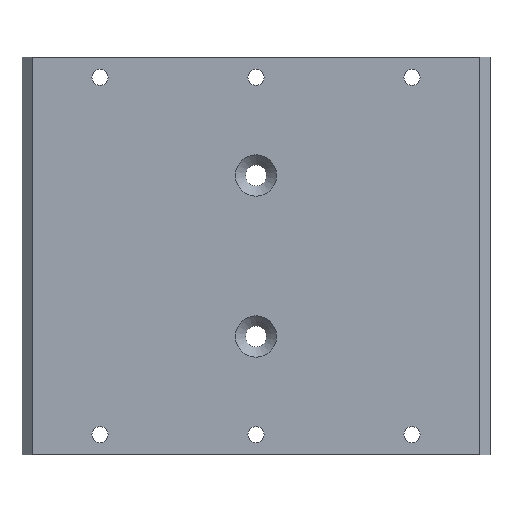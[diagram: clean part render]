
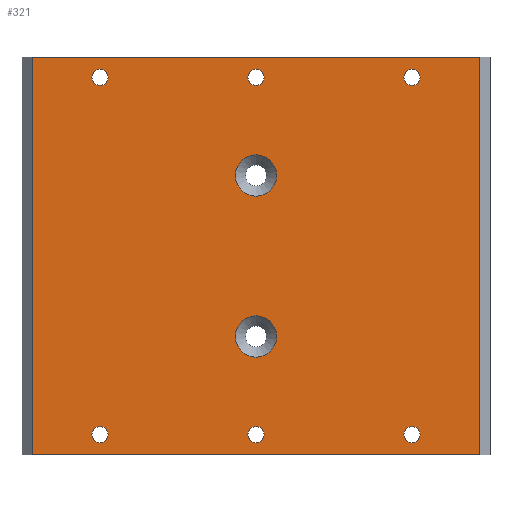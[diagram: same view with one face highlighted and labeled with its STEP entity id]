
A CAD part, front view. The second image highlights one B-rep face of the part: STEP entity #321.
In plain terms, the highlighted planar face has unit normal (0, -1, 0).
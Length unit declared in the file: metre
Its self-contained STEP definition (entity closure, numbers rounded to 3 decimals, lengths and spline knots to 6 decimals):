
#17=CIRCLE('',#348,0.0016);
#19=CIRCLE('',#351,0.0016);
#21=CIRCLE('',#354,0.0016);
#23=CIRCLE('',#357,0.0016);
#25=CIRCLE('',#360,0.0016);
#27=CIRCLE('',#363,0.0016);
#30=CIRCLE('',#369,0.0041);
#31=CIRCLE('',#370,0.0041);
#80=ORIENTED_EDGE('',*,*,#142,.T.);
#81=ORIENTED_EDGE('',*,*,#143,.T.);
#82=ORIENTED_EDGE('',*,*,#115,.T.);
#83=ORIENTED_EDGE('',*,*,#144,.T.);
#84=ORIENTED_EDGE('',*,*,#123,.T.);
#85=ORIENTED_EDGE('',*,*,#145,.T.);
#86=ORIENTED_EDGE('',*,*,#137,.F.);
#87=ORIENTED_EDGE('',*,*,#135,.F.);
#88=ORIENTED_EDGE('',*,*,#133,.F.);
#89=ORIENTED_EDGE('',*,*,#131,.F.);
#90=ORIENTED_EDGE('',*,*,#129,.F.);
#91=ORIENTED_EDGE('',*,*,#127,.F.);
#115=EDGE_CURVE('',#152,#151,#181,.T.);
#123=EDGE_CURVE('',#154,#159,#189,.T.);
#127=EDGE_CURVE('',#163,#163,#17,.T.);
#129=EDGE_CURVE('',#165,#165,#19,.T.);
#131=EDGE_CURVE('',#167,#167,#21,.T.);
#133=EDGE_CURVE('',#169,#169,#23,.T.);
#135=EDGE_CURVE('',#171,#171,#25,.T.);
#137=EDGE_CURVE('',#173,#173,#27,.T.);
#142=EDGE_CURVE('',#176,#176,#30,.F.);
#143=EDGE_CURVE('',#177,#177,#31,.F.);
#144=EDGE_CURVE('',#151,#154,#192,.T.);
#145=EDGE_CURVE('',#159,#152,#193,.T.);
#151=VERTEX_POINT('',#477);
#152=VERTEX_POINT('',#479);
#154=VERTEX_POINT('',#485);
#159=VERTEX_POINT('',#494);
#163=VERTEX_POINT('',#505);
#165=VERTEX_POINT('',#510);
#167=VERTEX_POINT('',#515);
#169=VERTEX_POINT('',#520);
#171=VERTEX_POINT('',#525);
#173=VERTEX_POINT('',#530);
#176=VERTEX_POINT('',#541);
#177=VERTEX_POINT('',#543);
#181=LINE('',#478,#199);
#189=LINE('',#495,#207);
#192=LINE('',#544,#210);
#193=LINE('',#545,#211);
#199=VECTOR('',#384,1.);
#207=VECTOR('',#394,1.);
#210=VECTOR('',#453,1.);
#211=VECTOR('',#454,1.);
#241=EDGE_LOOP('',(#80));
#242=EDGE_LOOP('',(#81));
#243=EDGE_LOOP('',(#82,#83,#84,#85));
#244=EDGE_LOOP('',(#86));
#245=EDGE_LOOP('',(#87));
#246=EDGE_LOOP('',(#88));
#247=EDGE_LOOP('',(#89));
#248=EDGE_LOOP('',(#90));
#249=EDGE_LOOP('',(#91));
#285=FACE_BOUND('',#241,.T.);
#286=FACE_BOUND('',#242,.T.);
#287=FACE_BOUND('',#243,.T.);
#288=FACE_BOUND('',#244,.T.);
#289=FACE_BOUND('',#245,.T.);
#290=FACE_BOUND('',#246,.T.);
#291=FACE_BOUND('',#247,.T.);
#292=FACE_BOUND('',#248,.T.);
#293=FACE_BOUND('',#249,.T.);
#305=PLANE('',#368);
#321=ADVANCED_FACE('',(#285,#286,#287,#288,#289,#290,#291,#292,#293),#305,
 .T.);
#348=AXIS2_PLACEMENT_3D('',#504,#405,#406);
#351=AXIS2_PLACEMENT_3D('',#509,#411,#412);
#354=AXIS2_PLACEMENT_3D('',#514,#417,#418);
#357=AXIS2_PLACEMENT_3D('',#519,#423,#424);
#360=AXIS2_PLACEMENT_3D('',#524,#429,#430);
#363=AXIS2_PLACEMENT_3D('',#529,#435,#436);
#368=AXIS2_PLACEMENT_3D('',#539,#447,#448);
#369=AXIS2_PLACEMENT_3D('',#540,#449,#450);
#370=AXIS2_PLACEMENT_3D('',#542,#451,#452);
#384=DIRECTION('',(-1.,0.,0.));
#394=DIRECTION('',(1.,0.,0.));
#405=DIRECTION('',(0.,-1.,0.));
#406=DIRECTION('',(0.,0.,-1.));
#411=DIRECTION('',(0.,-1.,0.));
#412=DIRECTION('',(0.,0.,-1.));
#417=DIRECTION('',(0.,-1.,0.));
#418=DIRECTION('',(0.,0.,-1.));
#423=DIRECTION('',(0.,-1.,0.));
#424=DIRECTION('',(0.,0.,-1.));
#429=DIRECTION('',(0.,-1.,0.));
#430=DIRECTION('',(0.,0.,-1.));
#435=DIRECTION('',(0.,-1.,0.));
#436=DIRECTION('',(0.,0.,-1.));
#447=DIRECTION('',(0.,-1.,0.));
#448=DIRECTION('',(1.,0.,0.));
#449=DIRECTION('',(0.,-1.,0.));
#450=DIRECTION('',(0.,0.,-1.));
#451=DIRECTION('',(0.,-1.,0.));
#452=DIRECTION('',(0.,0.,-1.));
#453=DIRECTION('',(0.,0.,-1.));
#454=DIRECTION('',(0.,0.,1.));
#477=CARTESIAN_POINT('',(-0.0445,0.029,0.005));
#478=CARTESIAN_POINT('',(0.,0.029,0.005));
#479=CARTESIAN_POINT('',(0.0445,0.029,0.005));
#485=CARTESIAN_POINT('',(-0.0445,0.029,-0.074));
#494=CARTESIAN_POINT('',(0.0445,0.029,-0.074));
#495=CARTESIAN_POINT('',(0.,0.029,-0.074));
#504=CARTESIAN_POINT('',(0.031,0.029,0.001));
#505=CARTESIAN_POINT('',(0.031,0.029,-0.0006));
#509=CARTESIAN_POINT('',(0.,0.029,0.001));
#510=CARTESIAN_POINT('',(0.,0.029,-0.0006));
#514=CARTESIAN_POINT('',(-0.031,0.029,0.001));
#515=CARTESIAN_POINT('',(-0.031,0.029,-0.0006));
#519=CARTESIAN_POINT('',(-0.031,0.029,-0.07));
#520=CARTESIAN_POINT('',(-0.031,0.029,-0.0716));
#524=CARTESIAN_POINT('',(0.,0.029,-0.07));
#525=CARTESIAN_POINT('',(0.,0.029,-0.0716));
#529=CARTESIAN_POINT('',(0.031,0.029,-0.07));
#530=CARTESIAN_POINT('',(0.031,0.029,-0.0716));
#539=CARTESIAN_POINT('',(0.,0.029,-0.0345));
#540=CARTESIAN_POINT('',(0.,0.029,-0.0505));
#541=CARTESIAN_POINT('',(0.,0.029,-0.0546));
#542=CARTESIAN_POINT('',(0.,0.029,-0.0185));
#543=CARTESIAN_POINT('',(0.,0.029,-0.0226));
#544=CARTESIAN_POINT('',(-0.0445,0.029,-0.0345));
#545=CARTESIAN_POINT('',(0.0445,0.029,0.005));
